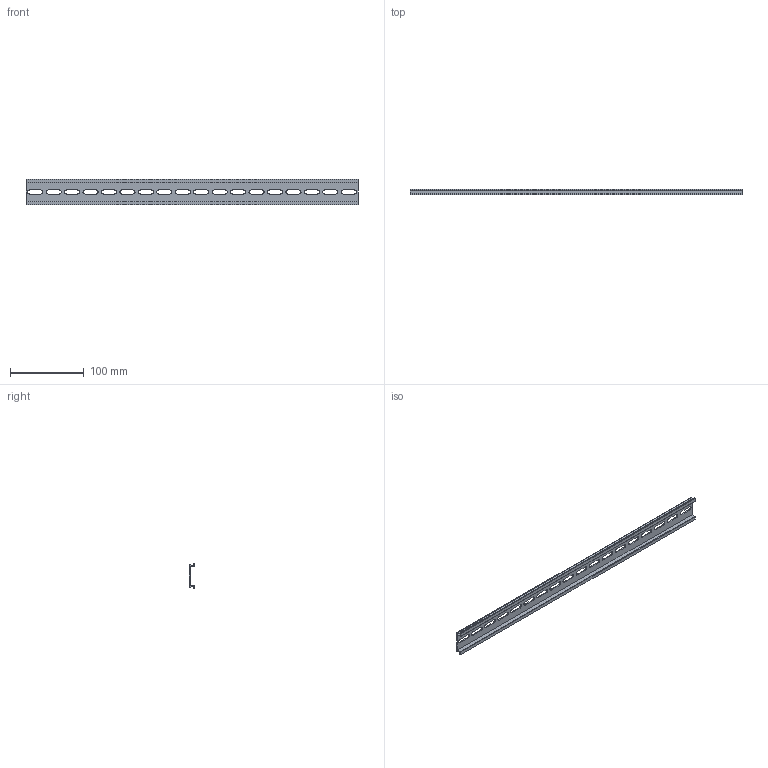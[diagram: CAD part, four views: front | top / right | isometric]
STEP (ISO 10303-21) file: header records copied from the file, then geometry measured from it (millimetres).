
FILE_DESCRIPTION( (''), '2;1');
FILE_NAME ('CVICAD02.15516.DIN-RAIL450_7452.stp','2020-09-01T14:18:41',(''),(''),'spGate 12.6.6','','');
FILE_SCHEMA (('AUTOMOTIVE_DESIGN'));
Length unit declared in the file: millimetre
Bounding box: 450 x 7.5 x 35 mm (x, y, z)
Volume: 31770 mm3; surface area: 42468.2 mm2
Topology: 1 solids, 1 shells, 92 faces, 270 edges, 180 vertices
Faces by surface type: plane 54, cylinder 38
Entity records: 5245 total; most frequent: CARTESIAN_POINT 542, ORIENTED_EDGE 540, DIRECTION 530, COLOUR_RGB 363, PRESENTATION_STYLE_ASSIGNMENT 363, STYLED_ITEM 363, EDGE_CURVE 270, DRAUGHTING_PRE_DEFINED_CURVE_FONT 270
